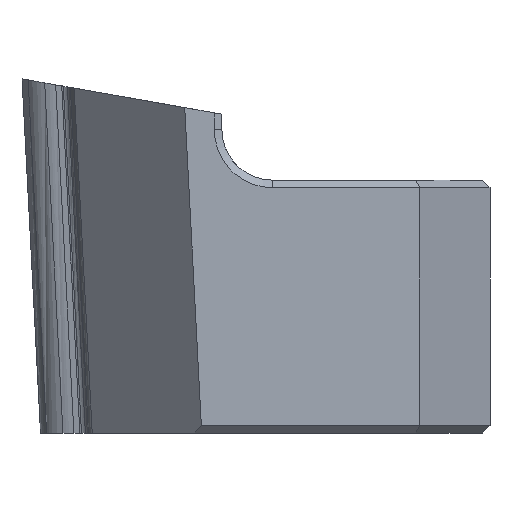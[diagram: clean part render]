
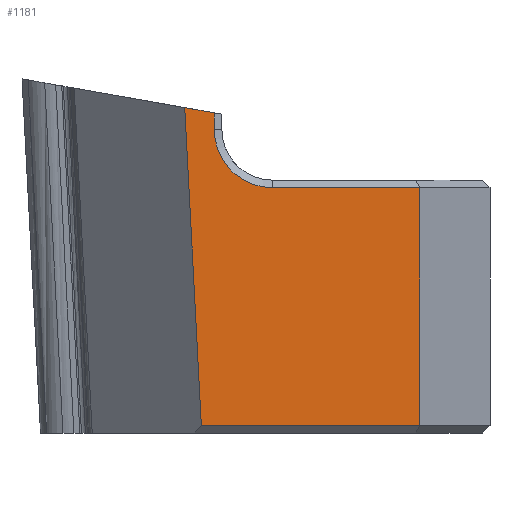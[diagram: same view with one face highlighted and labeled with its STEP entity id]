
A CAD part, left-side view. The second image highlights one B-rep face of the part: STEP entity #1181.
In plain terms, the highlighted planar face has unit normal (-1, 0, 0).
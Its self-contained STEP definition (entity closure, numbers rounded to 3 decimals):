
#24 = LINE ( 'NONE', #564, #752 ) ;
#30 = LINE ( 'NONE', #572, #1610 ) ;
#35 = VECTOR ( 'NONE', #399, 1000. ) ;
#83 = VERTEX_POINT ( 'NONE', #852 ) ;
#120 = VECTOR ( 'NONE', #275, 1000. ) ;
#177 = DIRECTION ( 'NONE',  ( 0., 0., 1. ) ) ;
#230 = ORIENTED_EDGE ( 'NONE', *, *, #735, .T. ) ;
#275 = DIRECTION ( 'NONE',  ( 0., 0., -1. ) ) ;
#320 = VERTEX_POINT ( 'NONE', #965 ) ;
#373 = DIRECTION ( 'NONE',  ( 1., 0., 0. ) ) ;
#379 = VERTEX_POINT ( 'NONE', #454 ) ;
#399 = DIRECTION ( 'NONE',  ( 0., -1., 0. ) ) ;
#427 = CARTESIAN_POINT ( 'NONE',  ( -6.55, -4.409, 7. ) ) ;
#454 = CARTESIAN_POINT ( 'NONE',  ( -6.55, -13.768, -6.7 ) ) ;
#494 = CIRCLE ( 'NONE', #1467, 2.3 ) ;
#510 = FACE_OUTER_BOUND ( 'NONE', #1434, .T. ) ;
#513 = EDGE_CURVE ( 'NONE', #765, #83, #30, .T. ) ;
#519 = CARTESIAN_POINT ( 'NONE',  ( -6.55, -5.637, 5. ) ) ;
#564 = CARTESIAN_POINT ( 'NONE',  ( -6.55, -4.217, 5.91 ) ) ;
#572 = CARTESIAN_POINT ( 'NONE',  ( -6.55, -7.937, 2.7 ) ) ;
#637 = VERTEX_POINT ( 'NONE', #1268 ) ;
#727 = EDGE_CURVE ( 'NONE', #637, #320, #24, .T. ) ;
#735 = EDGE_CURVE ( 'NONE', #637, #928, #1620, .T. ) ;
#752 = VECTOR ( 'NONE', #1090, 1000. ) ;
#765 = VERTEX_POINT ( 'NONE', #1111 ) ;
#844 = LINE ( 'NONE', #1379, #1182 ) ;
#849 = CARTESIAN_POINT ( 'NONE',  ( -6.55, -7.937, 5. ) ) ;
#852 = CARTESIAN_POINT ( 'NONE',  ( -6.55, -7.937, 2.7 ) ) ;
#903 = ORIENTED_EDGE ( 'NONE', *, *, #1514, .T. ) ;
#904 = ORIENTED_EDGE ( 'NONE', *, *, #727, .F. ) ;
#907 = DIRECTION ( 'NONE',  ( 0., 0., -1. ) ) ;
#928 = VERTEX_POINT ( 'NONE', #1615 ) ;
#958 = DIRECTION ( 'NONE',  ( 0., -0.052, -0.999 ) ) ;
#965 = CARTESIAN_POINT ( 'NONE',  ( -6.55, -5.637, 5.66 ) ) ;
#1036 = PLANE ( 'NONE',  #1166 ) ;
#1061 = ORIENTED_EDGE ( 'NONE', *, *, #1640, .T. ) ;
#1064 = LINE ( 'NONE', #1594, #35 ) ;
#1068 = LINE ( 'NONE', #1475, #120 ) ;
#1090 = DIRECTION ( 'NONE',  ( 0., -0.985, -0.174 ) ) ;
#1099 = DIRECTION ( 'NONE',  ( 0., 1., 0. ) ) ;
#1111 = CARTESIAN_POINT ( 'NONE',  ( -6.55, -13.768, 2.7 ) ) ;
#1166 = AXIS2_PLACEMENT_3D ( 'NONE', #1568, #373, #907 ) ;
#1181 = ADVANCED_FACE ( 'NONE', ( #510 ), #1036, .F. ) ;
#1182 = VECTOR ( 'NONE', #177, 1000. ) ;
#1186 = VERTEX_POINT ( 'NONE', #519 ) ;
#1197 = ORIENTED_EDGE ( 'NONE', *, *, #1232, .F. ) ;
#1232 = EDGE_CURVE ( 'NONE', #765, #379, #1068, .T. ) ;
#1268 = CARTESIAN_POINT ( 'NONE',  ( -6.55, -4.468, 5.866 ) ) ;
#1343 = EDGE_CURVE ( 'NONE', #1186, #320, #844, .T. ) ;
#1376 = ORIENTED_EDGE ( 'NONE', *, *, #513, .T. ) ;
#1379 = CARTESIAN_POINT ( 'NONE',  ( -6.55, -5.637, 5.607 ) ) ;
#1383 = DIRECTION ( 'NONE',  ( 1., 0., 0. ) ) ;
#1389 = ORIENTED_EDGE ( 'NONE', *, *, #1343, .T. ) ;
#1434 = EDGE_LOOP ( 'NONE', ( #1061, #1389, #904, #230, #903, #1197, #1376 ) ) ;
#1467 = AXIS2_PLACEMENT_3D ( 'NONE', #849, #1383, #1559 ) ;
#1475 = CARTESIAN_POINT ( 'NONE',  ( -6.55, -13.768, 7. ) ) ;
#1514 = EDGE_CURVE ( 'NONE', #928, #379, #1064, .T. ) ;
#1559 = DIRECTION ( 'NONE',  ( 0., 0., -1. ) ) ;
#1568 = CARTESIAN_POINT ( 'NONE',  ( -6.55, -4.409, 7. ) ) ;
#1594 = CARTESIAN_POINT ( 'NONE',  ( -6.55, -4.409, -6.7 ) ) ;
#1610 = VECTOR ( 'NONE', #1099, 1000. ) ;
#1615 = CARTESIAN_POINT ( 'NONE',  ( -6.55, -5.127, -6.7 ) ) ;
#1620 = LINE ( 'NONE', #427, #1731 ) ;
#1640 = EDGE_CURVE ( 'NONE', #83, #1186, #494, .T. ) ;
#1731 = VECTOR ( 'NONE', #958, 1000. ) ;
